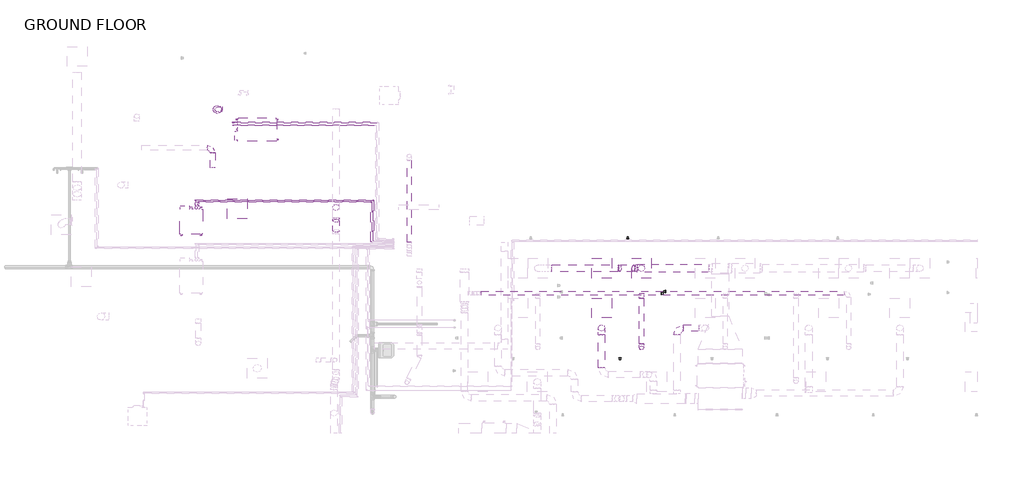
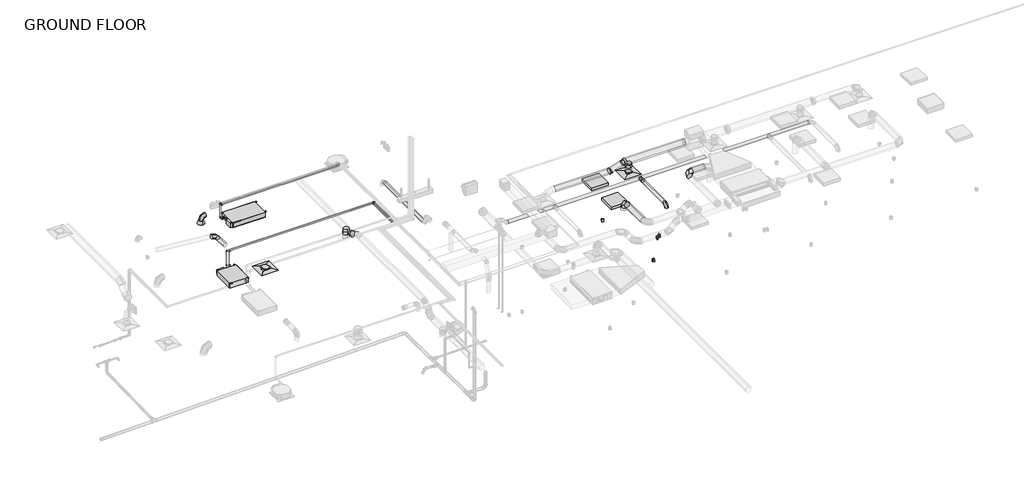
# One storey, part 17 of 22: 15 duct segments, 14 pipe segments, 13 duct fittings, 13 pipe fittings, 5 proxies, 2 air terminals, 2 light fixtures, 1 switching device.
"""IFC4 building model written with IfcOpenShell, lengths in millimetres."""

from ifc_helpers import new_model, si_unit, point, frame, frame_2d, origin, place, context, project, spatial, circle_curve, trimmed, segment, composite_curve, outline, extrude, transform, mapped, element, save
from components import air_terminal_a1f6e78c, air_terminal_e9020785, mechanical_equipment_2ac3c092, mechanical_equipment_deea6110, duplex_receptacle_countertop_10251bba, round_elbow_1_d_a253342a, round_elbow_1_d_b37ad80b, round_elbow_1_d_c80420c1, round_elbow_1_d_e295ca55, round_elbow_1_d_adb29f0a, round_takeoff_standard_aff246af, round_takeoff_standard_ca4b4131, round_takeoff_standard_17dc06e3, round_transition_angle_45_degree_b52f7b1d, round_transition_angle_45_degree_2c0294df, troffer_corner_insert_2x2_3lamp_e67c7f8f, elbow_generic_standard_c06ac706, elbow_generic_standard_738589b0, elbow_generic_standard_9ba8e076, elbow_generic_standard_698ab1fc, elbow_generic_standard_3fcd958e, elbow_generic_standard_3179f303, elbow_generic_standard_d7b8c0aa, transition_generic_standard_b8cb4354, transition_generic_standard_d781b39e, transition_generic_standard_43f54093

model = new_model("IFC4")

# Units and contexts
model_context = context("Model", 3, world=origin())
ifc_project = project(units=[si_unit("LENGTHUNIT", "METRE", prefix="MILLI")], contexts=[model_context])

# Site, building, storey
site = spatial("IfcSite", under=ifc_project)
building = spatial("IfcBuilding", under=site)
storey = spatial("IfcBuildingStorey", under=building, Name="GROUND FLOOR", Elevation=30480.0)

# Air terminals
placement = place(None, origin())
air_terminal_shape = air_terminal_a1f6e78c(model_context)
element("IfcAirTerminal", 1, ObjectType="Supply Diffuser - Rectangular Face Round Neck - Hosted : 24\"x24\" Face 10\" Neck - Hosted", at=placement, inside=storey, context=model_context, shape_type="MappedRepresentation", body=[
    mapped(air_terminal_shape, transform((-14215.1079607, 8625.8820005, 32715.2), x_axis=(-1.0, 0.0, 0.0), y_axis=(0.0, 1.0, 0.0), z_axis=(0.0, 0.0, -1.0))),
])
air_terminal_2_shape = air_terminal_e9020785(model_context)
element("IfcAirTerminal", 2, ObjectType="Supply Diffuser - Rectangular Face Round Neck - Hosted : 24\"x24\" Face 8\" Neck - Hosted", at=placement, inside=storey, context=model_context, shape_type="MappedRepresentation", body=[
    mapped(air_terminal_2_shape, transform((-1837.3704607, 6811.3695005, 33223.2), x_axis=(0.0, -1.0, 0.0), y_axis=(-1.0, 0.0, 0.0), z_axis=(0.0, 0.0, -1.0))),
])

# Proxies
mechanical_equipment_shape = mechanical_equipment_2ac3c092(model_context)
element("IfcBuildingElementProxy", 3, Name="PEFY-P-NMSU-E_Low_Profile_Ducted : PEFY-P24NMSU-E", ObjectType="PEFY-P-NMSU-E_Low_Profile_Ducted : PEFY-P24NMSU-E", at=placement, inside=storey, context=model_context, shape_type="MappedRepresentation", body=[
    mapped(mechanical_equipment_shape, transform((-13605.5079607, 11064.9671849, 33021.690625), x_axis=(-1.0, 0.0, 0.0), y_axis=(0.0, -1.0, 0.0), z_axis=(0.0, 0.0, 1.0))),
])
mechanical_equipment_2_shape = mechanical_equipment_deea6110(model_context)
element("IfcBuildingElementProxy", 4, Name="PEFY-P-NMSU-E_Low_Profile_Ducted : PEFY-P12NMSU-E", ObjectType="PEFY-P-NMSU-E_Low_Profile_Ducted : PEFY-P12NMSU-E", at=placement, inside=storey, context=model_context, shape_type="MappedRepresentation", body=[
    mapped(mechanical_equipment_2_shape, transform((-15624.8774525, 8243.4520797, 33021.7207031), x_axis=(0.0, 1.0, 0.0), y_axis=(-1.0, 0.0, 0.0), z_axis=(0.0, 0.0, 1.0))),
])
duplex_receptacle_countertop_shape = duplex_receptacle_countertop_10251bba(model_context)
element("IfcBuildingElementProxy", 5, Name="Duplex Receptacle : Standard", ObjectType="Duplex Receptacle : Standard", at=placement, inside=storey, context=model_context, shape_type="MappedRepresentation", body=[
    mapped(duplex_receptacle_countertop_shape, transform((-2255.887518, 7725.7695005, 30937.2), x_axis=(-1.0, 0.0, 0.0), y_axis=(0.0, 0.0, -1.0), z_axis=(0.0, -1.0, 0.0))),
])
element("IfcBuildingElementProxy", 6, Name="Duplex Receptacle : Standard", ObjectType="Duplex Receptacle : Standard", at=placement, inside=storey, context=model_context, shape_type="MappedRepresentation", body=[
    mapped(duplex_receptacle_countertop_shape, transform((-1227.7704607, 6038.2733061, 30937.2), x_axis=(0.0, -1.0, 0.0), y_axis=(0.0, 0.0, 1.0), z_axis=(-1.0, 0.0, 0.0))),
])
element("IfcBuildingElementProxy", 7, Name="Duplex Receptacle : Standard", ObjectType="Duplex Receptacle : Standard", at=placement, inside=storey, context=model_context, shape_type="MappedRepresentation", body=[
    mapped(duplex_receptacle_countertop_shape, transform((-1103.9454607, 6101.6354535, 30937.2), x_axis=(0.0, 1.0, 0.0), y_axis=(0.0, 0.0, 1.0), z_axis=(1.0, 0.0, 0.0))),
])

# Duct fittings
round_elbow_1_d_shape = round_elbow_1_d_a253342a(model_context)
element("IfcDuctFitting", 8, ObjectType="Round Elbow : 1 D", at=placement, inside=storey, context=model_context, shape_type="MappedRepresentation", body=[
    mapped(round_elbow_1_d_shape, transform((-3056.5704607, 4982.5695005, 33629.6), x_axis=(0.0, 0.0, 1.0), y_axis=(0.0, -1.0, 0.0), z_axis=(1.0, 0.0, 0.0))),
])
element("IfcDuctFitting", 9, ObjectType="Round Elbow : 1 D", at=placement, inside=storey, context=model_context, shape_type="MappedRepresentation", body=[
    mapped(round_elbow_1_d_shape, transform((-754.6339071, 4982.5695005, 33947.89375), x_axis=(-1.0, 0.0, 0.0), y_axis=(0.0, -1.0, 0.0), z_axis=(0.0, 0.0, 1.0))),
])
round_elbow_1_d_2_shape = round_elbow_1_d_b37ad80b(model_context)
element("IfcDuctFitting", 10, ObjectType="Round Elbow : 1 D", at=placement, inside=storey, context=model_context, shape_type="MappedRepresentation", body=[
    mapped(round_elbow_1_d_2_shape, transform((-14824.7079607, 11673.8820005, 33121.6), x_axis=(0.0, 0.0, 1.0), y_axis=(1.0, 0.0, 0.0), z_axis=(0.0, 1.0, 0.0))),
])
element("IfcDuctFitting", 11, ObjectType="Round Elbow : 1 D", at=placement, inside=storey, context=model_context, shape_type="MappedRepresentation", body=[
    mapped(round_elbow_1_d_2_shape, transform((-14970.033703, 10498.3395797, 33121.6), x_axis=(0.0, 1.0, 0.0), y_axis=(-0.9961916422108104, 0.0, 0.08719066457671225), z_axis=(0.08719066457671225, 0.0, 0.9961916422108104))),
])
round_elbow_1_d_3_shape = round_elbow_1_d_c80420c1(model_context)
element("IfcDuctFitting", 12, ObjectType="Round Elbow : 1 D", at=placement, inside=storey, context=model_context, shape_type="MappedRepresentation", body=[
    mapped(round_elbow_1_d_3_shape, transform((-1837.3704607, 4372.9695005, 33464.5), x_axis=(0.0, -1.0, 0.0), y_axis=(0.0, 0.0, -1.0), z_axis=(1.0, 0.0, 0.0))),
])
round_elbow_1_d_4_shape = round_elbow_1_d_e295ca55(model_context)
element("IfcDuctFitting", 13, ObjectType="Round Elbow : 1 D", at=placement, inside=storey, context=model_context, shape_type="MappedRepresentation", body=[
    mapped(round_elbow_1_d_4_shape, transform((-11194.8892107, 8307.3750179, 33197.8), x_axis=(0.0, -1.0, 0.0), y_axis=(0.0, 0.0, 1.0), z_axis=(-1.0, 0.0, 0.0))),
])
round_elbow_1_d_5_shape = round_elbow_1_d_adb29f0a(model_context)
element("IfcDuctFitting", 14, ObjectType="Round Elbow : 1 D", at=placement, inside=storey, context=model_context, shape_type="MappedRepresentation", body=[
    mapped(round_elbow_1_d_5_shape, transform((-2055.3843434, 6811.3695005, 33680.0490295), x_axis=(-1.0, 0.0, 0.0), y_axis=(0.0, 0.0, -1.0), z_axis=(0.0, -1.0, 0.0))),
])
element("IfcDuctFitting", 15, ObjectType="Round Elbow : 1 D", at=placement, inside=storey, context=model_context, shape_type="MappedRepresentation", body=[
    mapped(round_elbow_1_d_5_shape, transform((-2523.3431384, 6811.3695005, 33528.0), x_axis=(-0.9510565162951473, 0.0, -0.30901699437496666), y_axis=(-0.30901699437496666, 0.0, 0.9510565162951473), z_axis=(0.0, 1.0, 0.0))),
])
round_takeoff_standard_shape = round_takeoff_standard_aff246af(model_context)
element("IfcDuctFitting", 16, ObjectType="Round Takeoff : Standard", at=placement, inside=storey, context=model_context, shape_type="MappedRepresentation", body=[
    mapped(round_takeoff_standard_shape, transform((-11194.8892107, 8675.0945005, 33096.2), x_axis=(0.0, 0.0, -1.0), y_axis=(-1.0, 0.0, 0.0), z_axis=(0.0, 1.0, 0.0))),
])
round_takeoff_standard_2_shape = round_takeoff_standard_ca4b4131(model_context)
element("IfcDuctFitting", 17, ObjectType="Round Takeoff : Standard", at=placement, inside=storey, context=model_context, shape_type="MappedRepresentation", body=[
    mapped(round_takeoff_standard_2_shape, transform((-1837.3704607, 6811.3695005, 33553.0490295), x_axis=(0.0, 0.0, -1.0), y_axis=(1.0, 0.0, 0.0), z_axis=(0.0, -1.0, 0.0))),
])
round_takeoff_standard_3_shape = round_takeoff_standard_17dc06e3(model_context)
element("IfcDuctFitting", 18, ObjectType="Round Takeoff : Standard", at=placement, inside=storey, context=model_context, shape_type="MappedRepresentation", body=[
    mapped(round_takeoff_standard_3_shape, transform((-1837.3704607, 5985.8695005, 33464.5), x_axis=(0.0, -1.0, 0.0), y_axis=(-1.0, 0.0, 0.0), z_axis=(0.0, 0.0, -1.0))),
])
round_transition_angle_45_degree_shape = round_transition_angle_45_degree_b52f7b1d(model_context)
element("IfcDuctFitting", 19, ObjectType="Round Transition - Angle : 45 Degree", at=placement, inside=storey, context=model_context, shape_type="MappedRepresentation", body=[
    mapped(round_transition_angle_45_degree_shape, transform((-14824.7079607, 11673.8820005, 32846.557951), x_axis=(0.0, 0.0, 1.0), y_axis=(0.0, 1.0, 0.0), z_axis=(-1.0, 0.0, 0.0))),
])
round_transition_angle_45_degree_2_shape = round_transition_angle_45_degree_2c0294df(model_context)
element("IfcDuctFitting", 20, ObjectType="Round Transition - Angle : 45 Degree", at=placement, inside=storey, context=model_context, shape_type="MappedRepresentation", body=[
    mapped(round_transition_angle_45_degree_2_shape, transform((-1961.8796006, 6811.3695005, 33680.0490295), x_axis=(-1.0, 0.0, 0.0), y_axis=(0.0, -1.0, 0.0), z_axis=(0.0, 0.0, 1.0))),
])

# Duct segments
element("IfcDuctSegment", 21, ObjectType="Taps / Short Radius", at=placement, inside=storey, context=model_context, shape_type="SweptSolid", body=[
    extrude(outline(composite_curve([segment(trimmed(circle_curve(frame_2d((-14824.7079607, 11673.8820005)), 127.0), [point((-14824.7079607, 11546.8820005))], [point((-14951.7079607, 11673.8820005))], False, "CARTESIAN"), True, "CONTINUOUS"), segment(trimmed(circle_curve(frame_2d((-14824.7079607, 11673.8820005)), 127.0), [point((-14951.7079607, 11673.8820005))], [point((-14824.7079607, 11800.8820005))], False, "CARTESIAN"), True, "CONTINUOUS"), segment(trimmed(circle_curve(frame_2d((-14824.7079607, 11673.8820005)), 127.0), [point((-14824.7079607, 11800.8820005))], [point((-14697.7079607, 11673.8820005))], False, "CARTESIAN"), True, "CONTINUOUS"), segment(trimmed(circle_curve(frame_2d((-14824.7079607, 11673.8820005)), 127.0), [point((-14697.7079607, 11673.8820005))], [point((-14824.7079607, 11546.8820005))], False, "CARTESIAN"), True, "CONTINUOUS")], self_intersect=False)), frame((0.0, 0.0, 32816.8), z_axis=(0.0, 0.0, 1.0), x_axis=(1.0, 0.0, 0.0)), (0.0, 0.0, 1.0), 29.757951),
])
element("IfcDuctSegment", 22, ObjectType="Taps / Short Radius", at=placement, inside=storey, context=model_context, shape_type="SweptSolid", body=[
    extrude(outline(composite_curve([segment(trimmed(circle_curve(frame_2d((0.0, 101.6)), 101.6), [point((-101.6, 101.6))], [point((0.0, 203.2))], False, "CARTESIAN"), True, "CONTINUOUS"), segment(trimmed(circle_curve(frame_2d((0.0, 101.6)), 101.6), [point((0.0, 203.2))], [point((101.6, 101.6))], False, "CARTESIAN"), True, "CONTINUOUS"), segment(trimmed(circle_curve(frame_2d((0.0, 101.6)), 101.6), [point((101.6, 101.6))], [point((0.0, 0.0))], False, "CARTESIAN"), True, "CONTINUOUS"), segment(trimmed(circle_curve(frame_2d((0.0, 101.6)), 101.6), [point((0.0, 0.0))], [point((-101.6, 101.6))], False, "CARTESIAN"), True, "CONTINUOUS")], self_intersect=False)), frame((-11194.8892107, 8217.6378472, 33129.5435153), z_axis=(0.0, -0.8906052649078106, 0.4547771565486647), x_axis=(1.0, 0.0, 0.0)), (0.0, 0.0, 1.0), 349.0544267),
])
element("IfcDuctSegment", 23, ObjectType="Taps / Short Radius", at=placement, inside=storey, context=model_context, shape_type="SweptSolid", body=[
    extrude(outline(composite_curve([segment(trimmed(circle_curve(frame_2d((6811.3695005, 33680.0490295)), 127.0), [point((6938.3695005, 33680.0490295))], [point((6811.3695005, 33553.0490295))], False, "CARTESIAN"), True, "CONTINUOUS"), segment(trimmed(circle_curve(frame_2d((6811.3695005, 33680.0490295)), 127.0), [point((6811.3695005, 33553.0490295))], [point((6684.3695005, 33680.0490295))], False, "CARTESIAN"), True, "CONTINUOUS"), segment(trimmed(circle_curve(frame_2d((6811.3695005, 33680.0490295)), 127.0), [point((6684.3695005, 33680.0490295))], [point((6811.3695005, 33807.0490295))], False, "CARTESIAN"), True, "CONTINUOUS"), segment(trimmed(circle_curve(frame_2d((6811.3695005, 33680.0490295)), 127.0), [point((6811.3695005, 33807.0490295))], [point((6938.3695005, 33680.0490295))], False, "CARTESIAN"), True, "CONTINUOUS")], self_intersect=False)), frame((-1961.8796006, 0.0, 0.0), z_axis=(1.0, 0.0, 0.0), x_axis=(0.0, 1.0, 0.0)), (0.0, 0.0, 1.0), 2182.2731725),
])
element("IfcDuctSegment", 24, ObjectType="Taps / Short Radius", at=placement, inside=storey, context=model_context, shape_type="SweptSolid", body=[
    extrude(outline(composite_curve([segment(trimmed(circle_curve(frame_2d((0.0, -101.6)), 101.6), [point((0.0, 0.0))], [point((101.6, -101.6))], False, "CARTESIAN"), True, "CONTINUOUS"), segment(trimmed(circle_curve(frame_2d((0.0, -101.6)), 101.6), [point((101.6, -101.6))], [point((0.0, -203.2))], False, "CARTESIAN"), True, "CONTINUOUS"), segment(trimmed(circle_curve(frame_2d((0.0, -101.6)), 101.6), [point((0.0, -203.2))], [point((-101.6, -101.6))], False, "CARTESIAN"), True, "CONTINUOUS"), segment(trimmed(circle_curve(frame_2d((0.0, -101.6)), 101.6), [point((-101.6, -101.6))], [point((0.0, 0.0))], False, "CARTESIAN"), True, "CONTINUOUS")], self_intersect=False)), frame((-2492.7346034, 6912.9695005, 33537.9453159), z_axis=(0.9510565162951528, 0.0, 0.30901699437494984), x_axis=(0.30901699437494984, 0.0, -0.9510565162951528)), (0.0, 0.0, 1.0), 427.6735589),
])
element("IfcDuctSegment", 25, ObjectType="Taps / Short Radius", at=placement, inside=storey, context=model_context, shape_type="SweptSolid", body=[
    extrude(outline(composite_curve([segment(trimmed(circle_curve(frame_2d((6811.3695005, 33528.0)), 101.6), [point((6912.9695005, 33528.0))], [point((6811.3695005, 33426.4))], False, "CARTESIAN"), True, "CONTINUOUS"), segment(trimmed(circle_curve(frame_2d((6811.3695005, 33528.0)), 101.6), [point((6811.3695005, 33426.4))], [point((6709.7695005, 33528.0))], False, "CARTESIAN"), True, "CONTINUOUS"), segment(trimmed(circle_curve(frame_2d((6811.3695005, 33528.0)), 101.6), [point((6709.7695005, 33528.0))], [point((6811.3695005, 33629.6))], False, "CARTESIAN"), True, "CONTINUOUS"), segment(trimmed(circle_curve(frame_2d((6811.3695005, 33528.0)), 101.6), [point((6811.3695005, 33629.6))], [point((6912.9695005, 33528.0))], False, "CARTESIAN"), True, "CONTINUOUS")], self_intersect=False)), frame((-4580.7431384, 0.0, 0.0), z_axis=(1.0, 0.0, 0.0), x_axis=(0.0, 1.0, 0.0)), (0.0, 0.0, 1.0), 2025.2162817),
])
element("IfcDuctSegment", 26, ObjectType="Taps / Short Radius", at=placement, inside=storey, context=model_context, shape_type="SweptSolid", body=[
    extrude(outline(composite_curve([segment(trimmed(circle_curve(frame_2d((-1837.3704607, 6811.3695005)), 101.6), [point((-1735.7704607, 6811.3695005))], [point((-1837.3704607, 6709.7695005))], False, "CARTESIAN"), True, "CONTINUOUS"), segment(trimmed(circle_curve(frame_2d((-1837.3704607, 6811.3695005)), 101.6), [point((-1837.3704607, 6709.7695005))], [point((-1938.9704607, 6811.3695005))], False, "CARTESIAN"), True, "CONTINUOUS"), segment(trimmed(circle_curve(frame_2d((-1837.3704607, 6811.3695005)), 101.6), [point((-1938.9704607, 6811.3695005))], [point((-1837.3704607, 6912.9695005))], False, "CARTESIAN"), True, "CONTINUOUS"), segment(trimmed(circle_curve(frame_2d((-1837.3704607, 6811.3695005)), 101.6), [point((-1837.3704607, 6912.9695005))], [point((-1735.7704607, 6811.3695005))], False, "CARTESIAN"), True, "CONTINUOUS")], self_intersect=False)), frame((0.0, 0.0, 33277.175), z_axis=(0.0, 0.0, 1.0), x_axis=(1.0, 0.0, 0.0)), (0.0, 0.0, 1.0), 174.2740295),
])
element("IfcDuctSegment", 27, ObjectType="Taps / Short Radius", at=placement, inside=storey, context=model_context, shape_type="SweptSolid", body=[
    extrude(outline(composite_curve([segment(trimmed(circle_curve(frame_2d((33629.6, -3056.5704607)), 101.6), [point((33629.6, -3158.1704607))], [point((33528.0, -3056.5704607))], False, "CARTESIAN"), True, "CONTINUOUS"), segment(trimmed(circle_curve(frame_2d((33629.6, -3056.5704607)), 101.6), [point((33528.0, -3056.5704607))], [point((33629.6, -2954.9704607))], False, "CARTESIAN"), True, "CONTINUOUS"), segment(trimmed(circle_curve(frame_2d((33629.6, -3056.5704607)), 101.6), [point((33629.6, -2954.9704607))], [point((33731.2, -3056.5704607))], False, "CARTESIAN"), True, "CONTINUOUS"), segment(trimmed(circle_curve(frame_2d((33629.6, -3056.5704607)), 101.6), [point((33731.2, -3056.5704607))], [point((33629.6, -3158.1704607))], False, "CARTESIAN"), True, "CONTINUOUS")], self_intersect=False)), frame((0.0, 3758.101218, 0.0), z_axis=(0.0, 1.0, 0.0), x_axis=(0.0, 0.0, 1.0)), (0.0, 0.0, 1.0), 1021.2682826),
])
element("IfcDuctSegment", 28, ObjectType="Taps / Short Radius", at=placement, inside=storey, context=model_context, shape_type="SweptSolid", body=[
    extrude(outline(composite_curve([segment(trimmed(circle_curve(frame_2d((-3056.5704607, 4982.5695005)), 101.6), [point((-3158.1704607, 4982.5695005))], [point((-3056.5704607, 5084.1695005))], False, "CARTESIAN"), True, "CONTINUOUS"), segment(trimmed(circle_curve(frame_2d((-3056.5704607, 4982.5695005)), 101.6), [point((-3056.5704607, 5084.1695005))], [point((-2954.9704607, 4982.5695005))], False, "CARTESIAN"), True, "CONTINUOUS"), segment(trimmed(circle_curve(frame_2d((-3056.5704607, 4982.5695005)), 101.6), [point((-2954.9704607, 4982.5695005))], [point((-3056.5704607, 4880.9695005))], False, "CARTESIAN"), True, "CONTINUOUS"), segment(trimmed(circle_curve(frame_2d((-3056.5704607, 4982.5695005)), 101.6), [point((-3056.5704607, 4880.9695005))], [point((-3158.1704607, 4982.5695005))], False, "CARTESIAN"), True, "CONTINUOUS")], self_intersect=False)), frame((0.0, 0.0, 33324.8), z_axis=(0.0, 0.0, 1.0), x_axis=(1.0, 0.0, 0.0)), (0.0, 0.0, 1.0), 101.6),
])
element("IfcDuctSegment", 29, ObjectType="Taps / Short Radius", at=placement, inside=storey, context=model_context, shape_type="SweptSolid", body=[
    extrude(outline(composite_curve([segment(trimmed(circle_curve(frame_2d((4982.5695005, 33947.89375)), 101.6), [point((5084.1695005, 33947.89375))], [point((4982.5695005, 33846.29375))], False, "CARTESIAN"), True, "CONTINUOUS"), segment(trimmed(circle_curve(frame_2d((4982.5695005, 33947.89375)), 101.6), [point((4982.5695005, 33846.29375))], [point((4880.9695005, 33947.89375))], False, "CARTESIAN"), True, "CONTINUOUS"), segment(trimmed(circle_curve(frame_2d((4982.5695005, 33947.89375)), 101.6), [point((4880.9695005, 33947.89375))], [point((4982.5695005, 34049.49375))], False, "CARTESIAN"), True, "CONTINUOUS"), segment(trimmed(circle_curve(frame_2d((4982.5695005, 33947.89375)), 101.6), [point((4982.5695005, 34049.49375))], [point((5084.1695005, 33947.89375))], False, "CARTESIAN"), True, "CONTINUOUS")], self_intersect=False)), frame((-551.4339071, 0.0, 0.0), z_axis=(1.0, 0.0, 0.0), x_axis=(0.0, 1.0, 0.0)), (0.0, 0.0, 1.0), 463.4884464),
])
element("IfcDuctSegment", 30, ObjectType="Taps / Short Radius", at=placement, inside=storey, context=model_context, shape_type="SweptSolid", body=[
    extrude(outline(composite_curve([segment(trimmed(circle_curve(frame_2d((0.0, 63.5)), 63.5), [point((-63.5, 63.5))], [point((0.0, 127.0))], False, "CARTESIAN"), True, "CONTINUOUS"), segment(trimmed(circle_curve(frame_2d((0.0, 63.5)), 63.5), [point((0.0, 127.0))], [point((63.5, 63.5))], False, "CARTESIAN"), True, "CONTINUOUS"), segment(trimmed(circle_curve(frame_2d((0.0, 63.5)), 63.5), [point((63.5, 63.5))], [point((0.0, 0.0))], False, "CARTESIAN"), True, "CONTINUOUS"), segment(trimmed(circle_curve(frame_2d((0.0, 63.5)), 63.5), [point((0.0, 0.0))], [point((-63.5, 63.5))], False, "CARTESIAN"), True, "CONTINUOUS")], self_intersect=False)), frame((-1837.3704607, 4309.4695005, 33324.8), z_axis=(0.0, -1.0231815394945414e-12, 1.0), x_axis=(1.0, 0.0, 0.0)), (0.0, 0.0, 1.0), 12.7),
])
element("IfcDuctSegment", 31, ObjectType="Taps / Short Radius", at=placement, inside=storey, context=model_context, shape_type="SweptSolid", body=[
    extrude(outline(composite_curve([segment(trimmed(circle_curve(frame_2d((33464.5, -1837.3704607)), 63.5), [point((33464.5, -1900.8704607))], [point((33401.0, -1837.3704607))], False, "CARTESIAN"), True, "CONTINUOUS"), segment(trimmed(circle_curve(frame_2d((33464.5, -1837.3704607)), 63.5), [point((33401.0, -1837.3704607))], [point((33464.5, -1773.8704607))], False, "CARTESIAN"), True, "CONTINUOUS"), segment(trimmed(circle_curve(frame_2d((33464.5, -1837.3704607)), 63.5), [point((33464.5, -1773.8704607))], [point((33528.0, -1837.3704607))], False, "CARTESIAN"), True, "CONTINUOUS"), segment(trimmed(circle_curve(frame_2d((33464.5, -1837.3704607)), 63.5), [point((33528.0, -1837.3704607))], [point((33464.5, -1900.8704607))], False, "CARTESIAN"), True, "CONTINUOUS")], self_intersect=False)), frame((0.0, 4499.9695005, 0.0), z_axis=(0.0, 1.0, 0.0), x_axis=(0.0, 0.0, 1.0)), (0.0, 0.0, 1.0), 1384.3),
])
element("IfcDuctSegment", 32, ObjectType="Taps / Short Radius", at=placement, inside=storey, context=model_context, shape_type="SweptSolid", body=[
    extrude(outline(composite_curve([segment(trimmed(circle_curve(frame_2d((33121.6, -14970.033703)), 76.2), [point((33121.6, -14893.833703))], [point((33197.8, -14970.033703))], False, "CARTESIAN"), True, "CONTINUOUS"), segment(trimmed(circle_curve(frame_2d((33121.6, -14970.033703)), 76.2), [point((33197.8, -14970.033703))], [point((33121.6, -15046.233703))], False, "CARTESIAN"), True, "CONTINUOUS"), segment(trimmed(circle_curve(frame_2d((33121.6, -14970.033703)), 76.2), [point((33121.6, -15046.233703))], [point((33045.4, -14970.033703))], False, "CARTESIAN"), True, "CONTINUOUS"), segment(trimmed(circle_curve(frame_2d((33121.6, -14970.033703)), 76.2), [point((33045.4, -14970.033703))], [point((33121.6, -14893.833703))], False, "CARTESIAN"), True, "CONTINUOUS")], self_intersect=False)), frame((0.0, 9884.3816287, 0.0), z_axis=(0.0, 1.0, 0.0), x_axis=(0.0, 0.0, 1.0)), (0.0, 0.0, 1.0), 461.557951),
])
element("IfcDuctSegment", 33, ObjectType="Taps / Short Radius", at=placement, inside=storey, context=model_context, shape_type="SweptSolid", body=[
    extrude(outline(composite_curve([segment(trimmed(circle_curve(frame_2d((-11194.8892107, 8675.0945005)), 101.6), [point((-11296.4892107, 8675.0945005))], [point((-11194.8892107, 8776.6945005))], False, "CARTESIAN"), True, "CONTINUOUS"), segment(trimmed(circle_curve(frame_2d((-11194.8892107, 8675.0945005)), 101.6), [point((-11194.8892107, 8776.6945005))], [point((-11093.2892107, 8675.0945005))], False, "CARTESIAN"), True, "CONTINUOUS"), segment(trimmed(circle_curve(frame_2d((-11194.8892107, 8675.0945005)), 101.6), [point((-11093.2892107, 8675.0945005))], [point((-11194.8892107, 8573.4945005))], False, "CARTESIAN"), True, "CONTINUOUS"), segment(trimmed(circle_curve(frame_2d((-11194.8892107, 8675.0945005)), 101.6), [point((-11194.8892107, 8573.4945005))], [point((-11296.4892107, 8675.0945005))], False, "CARTESIAN"), True, "CONTINUOUS")], self_intersect=False)), frame((0.0, 0.0, 32816.8), z_axis=(0.0, 0.0, 1.0), x_axis=(1.0, 0.0, 0.0)), (0.0, 0.0, 1.0), 177.8),
])
element("IfcDuctSegment", 34, ObjectType="Taps / Short Radius", at=placement, inside=storey, context=model_context, shape_type="SweptSolid", body=[
    extrude(outline(composite_curve([segment(trimmed(circle_curve(frame_2d((33324.8, -8950.9579607)), 63.5), [point((33324.8, -9014.4579607))], [point((33261.3, -8950.9579607))], False, "CARTESIAN"), True, "CONTINUOUS"), segment(trimmed(circle_curve(frame_2d((33324.8, -8950.9579607)), 63.5), [point((33261.3, -8950.9579607))], [point((33324.8, -8887.4579607))], False, "CARTESIAN"), True, "CONTINUOUS"), segment(trimmed(circle_curve(frame_2d((33324.8, -8950.9579607)), 63.5), [point((33324.8, -8887.4579607))], [point((33388.3, -8950.9579607))], False, "CARTESIAN"), True, "CONTINUOUS"), segment(trimmed(circle_curve(frame_2d((33324.8, -8950.9579607)), 63.5), [point((33388.3, -8950.9579607))], [point((33324.8, -9014.4579607))], False, "CARTESIAN"), True, "CONTINUOUS")], self_intersect=False)), frame((0.0, 7605.1195005, 0.0), z_axis=(0.0, 1.0, 0.0), x_axis=(0.0, 0.0, 1.0)), (0.0, 0.0, 1.0), 2514.6),
])
element("IfcDuctSegment", 35, ObjectType="Taps / Short Radius", at=placement, inside=storey, context=model_context, shape_type="SweptSolid", body=[
    extrude(outline(composite_curve([segment(trimmed(circle_curve(frame_2d((6049.3695005, 33464.5)), 63.5), [point((5985.8695005, 33464.5))], [point((6049.3695005, 33528.0))], False, "CARTESIAN"), True, "CONTINUOUS"), segment(trimmed(circle_curve(frame_2d((6049.3695005, 33464.5)), 63.5), [point((6049.3695005, 33528.0))], [point((6112.8695005, 33464.5))], False, "CARTESIAN"), True, "CONTINUOUS"), segment(trimmed(circle_curve(frame_2d((6049.3695005, 33464.5)), 63.5), [point((6112.8695005, 33464.5))], [point((6049.3695005, 33401.0))], False, "CARTESIAN"), True, "CONTINUOUS"), segment(trimmed(circle_curve(frame_2d((6049.3695005, 33464.5)), 63.5), [point((6049.3695005, 33401.0))], [point((5985.8695005, 33464.5))], False, "CARTESIAN"), True, "CONTINUOUS")], self_intersect=False)), frame((-6741.227503, 0.0, 0.0), z_axis=(1.0, 0.0, 0.0), x_axis=(0.0, 1.0, 0.0)), (0.0, 0.0, 1.0), 11120.5070423),
])

# Light fixtures
troffer_corner_insert_2x2_3lamp_shape = troffer_corner_insert_2x2_3lamp_e67c7f8f(model_context)
element("IfcLightFixture", 36, ObjectType="Troffer Corner Insert : 2x2 3Lamp", at=placement, inside=storey, context=model_context, shape_type="MappedRepresentation", body=[
    mapped(troffer_corner_insert_2x2_3lamp_shape, transform((-3056.5704607, 6811.3695005, 30784.8), x_axis=(1.0, 0.0, 0.0), y_axis=(0.0, 1.0, 0.0), z_axis=(0.0, 0.0, 1.0))),
])
element("IfcLightFixture", 37, ObjectType="Troffer Corner Insert : 2x2 3Lamp", at=placement, inside=storey, context=model_context, shape_type="MappedRepresentation", body=[
    mapped(troffer_corner_insert_2x2_3lamp_shape, transform((-3056.5704607, 5592.1695005, 30784.8), x_axis=(1.0, 0.0, 0.0), y_axis=(0.0, 1.0, 0.0), z_axis=(0.0, 0.0, 1.0))),
])

# Pipe fittings
elbow_generic_standard_shape = elbow_generic_standard_c06ac706(model_context)
element("IfcPipeFitting", 38, ObjectType="Elbow - Generic : Standard", at=placement, inside=storey, context=model_context, shape_type="MappedRepresentation", body=[
    mapped(elbow_generic_standard_shape, transform((-15415.123395, 8840.3395774, 33680.4), x_axis=(0.0, 0.0, 1.0), y_axis=(1.0, 0.0, 0.0), z_axis=(0.0, 1.0, 0.0))),
])
element("IfcPipeFitting", 39, ObjectType="Elbow - Generic : Standard", at=placement, inside=storey, context=model_context, shape_type="MappedRepresentation", body=[
    mapped(elbow_generic_standard_shape, transform((-10108.9967002, 8840.3395774, 33680.4), x_axis=(0.0, 1.0, 0.0), y_axis=(-1.0, 0.0, 0.0), z_axis=(0.0, 0.0, 1.0))),
])
elbow_generic_standard_2_shape = elbow_generic_standard_738589b0(model_context)
element("IfcPipeFitting", 40, ObjectType="Elbow - Generic : Standard", at=placement, inside=storey, context=model_context, shape_type="MappedRepresentation", body=[
    mapped(elbow_generic_standard_2_shape, transform((-14343.6452537, 11191.5268827, 33680.4), x_axis=(0.0, 0.0, 1.0), y_axis=(1.0, 0.0, 0.0), z_axis=(0.0, 1.0, 0.0))),
])
element("IfcPipeFitting", 41, ObjectType="Elbow - Generic : Standard", at=placement, inside=storey, context=model_context, shape_type="MappedRepresentation", body=[
    mapped(elbow_generic_standard_2_shape, transform((-15498.3177546, 8891.1395782, 33680.4), x_axis=(0.0, 0.0, 1.0), y_axis=(1.0, 0.0, 0.0), z_axis=(0.0, 1.0, 0.0))),
])
element("IfcPipeFitting", 42, ObjectType="Elbow - Generic : Standard", at=placement, inside=storey, context=model_context, shape_type="MappedRepresentation", body=[
    mapped(elbow_generic_standard_2_shape, transform((-10040.0330578, 8891.1395782, 33680.4), x_axis=(0.0, 1.0, 0.0), y_axis=(-1.0, 0.0, 0.0), z_axis=(0.0, 0.0, 1.0))),
])
elbow_generic_standard_3_shape = elbow_generic_standard_9ba8e076(model_context)
element("IfcPipeFitting", 43, ObjectType="Elbow - Generic : Standard", at=placement, inside=storey, context=model_context, shape_type="MappedRepresentation", body=[
    mapped(elbow_generic_standard_3_shape, transform((-14343.6452537, 11191.5268827, 33121.690625), x_axis=(-1.0, 0.0, 0.0), y_axis=(0.0, 0.0, 1.0), z_axis=(0.0, 1.0, 0.0))),
])
elbow_generic_standard_4_shape = elbow_generic_standard_698ab1fc(model_context)
element("IfcPipeFitting", 44, ObjectType="Elbow - Generic : Standard", at=placement, inside=storey, context=model_context, shape_type="MappedRepresentation", body=[
    mapped(elbow_generic_standard_4_shape, transform((-14350.0454441, 11274.7212423, 33121.690625), x_axis=(-1.0, 0.0, 0.0), y_axis=(0.0, 0.0, 1.0), z_axis=(0.0, 1.0, 0.0))),
])
elbow_generic_standard_5_shape = elbow_generic_standard_3fcd958e(model_context)
element("IfcPipeFitting", 45, ObjectType="Elbow - Generic : Standard", at=placement, inside=storey, context=model_context, shape_type="MappedRepresentation", body=[
    mapped(elbow_generic_standard_5_shape, transform((-14350.0448515, 11274.7212423, 33680.3914063), x_axis=(0.0, 0.0, 1.0), y_axis=(1.0, 0.0, 0.0), z_axis=(0.0, 1.0, 0.0))),
])
elbow_generic_standard_6_shape = elbow_generic_standard_3179f303(model_context)
element("IfcPipeFitting", 46, ObjectType="Elbow - Generic : Standard", at=placement, inside=storey, context=model_context, shape_type="MappedRepresentation", body=[
    mapped(elbow_generic_standard_6_shape, transform((-15415.123395, 8840.3395774, 33121.6992188), x_axis=(0.0, 0.9999999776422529, -0.00021146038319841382), y_axis=(0.0, 0.00021146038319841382, 0.9999999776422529), z_axis=(1.0, 0.0, 0.0))),
])
elbow_generic_standard_7_shape = elbow_generic_standard_d7b8c0aa(model_context)
element("IfcPipeFitting", 47, ObjectType="Elbow - Generic : Standard", at=placement, inside=storey, context=model_context, shape_type="MappedRepresentation", body=[
    mapped(elbow_generic_standard_7_shape, transform((-15498.3177546, 8891.1395782, 33121.6992188), x_axis=(0.0, 0.9999999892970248, -0.00014630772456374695), y_axis=(0.0, 0.00014630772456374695, 0.9999999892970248), z_axis=(1.0, 0.0, 0.0))),
])
transition_generic_standard_shape = transition_generic_standard_b8cb4354(model_context)
element("IfcPipeFitting", 48, ObjectType="Transition - Generic : Standard", at=placement, inside=storey, context=model_context, shape_type="MappedRepresentation", body=[
    mapped(transition_generic_standard_shape, transform((-14343.6452537, 11191.5268827, 33139.128125), x_axis=(0.0, 0.0, 1.0), y_axis=(0.0, 1.0, 0.0), z_axis=(-1.0, 0.0, 0.0))),
])
transition_generic_standard_2_shape = transition_generic_standard_d781b39e(model_context)
element("IfcPipeFitting", 49, ObjectType="Transition - Generic : Standard", at=placement, inside=storey, context=model_context, shape_type="MappedRepresentation", body=[
    mapped(transition_generic_standard_2_shape, transform((-14350.0454441, 11274.7212423, 33145.528125), x_axis=(0.0, 0.0, 1.0), y_axis=(0.0, 1.0, 0.0), z_axis=(-1.0, 0.0, 0.0))),
])
transition_generic_standard_3_shape = transition_generic_standard_43f54093(model_context)
element("IfcPipeFitting", 50, ObjectType="Transition - Generic : Standard", at=placement, inside=storey, context=model_context, shape_type="MappedRepresentation", body=[
    mapped(transition_generic_standard_3_shape, transform((-15498.3177546, 8738.7395797, 33121.7207031), x_axis=(0.0, 1.0, 0.0), y_axis=(-1.0, 0.0, 0.0), z_axis=(0.0, 0.0, 1.0))),
])

# Pipe segments
element("IfcPipeSegment", 51, ObjectType="Copper Tubing", at=placement, inside=storey, context=model_context, shape_type="SweptSolid", body=[
    extrude(outline(composite_curve([segment(trimmed(circle_curve(frame_2d((-14343.6452537, 11191.5268827)), 11.1125), [point((-14354.7577537, 11191.5268827))], [point((-14343.6452537, 11202.6393827))], False, "CARTESIAN"), True, "CONTINUOUS"), segment(trimmed(circle_curve(frame_2d((-14343.6452537, 11191.5268827)), 11.1125), [point((-14343.6452537, 11202.6393827))], [point((-14332.5327537, 11191.5268827))], False, "CARTESIAN"), True, "CONTINUOUS"), segment(trimmed(circle_curve(frame_2d((-14343.6452537, 11191.5268827)), 11.1125), [point((-14332.5327537, 11191.5268827))], [point((-14343.6452537, 11180.4143827))], False, "CARTESIAN"), True, "CONTINUOUS"), segment(trimmed(circle_curve(frame_2d((-14343.6452537, 11191.5268827)), 11.1125), [point((-14343.6452537, 11180.4143827))], [point((-14354.7577537, 11191.5268827))], False, "CARTESIAN"), True, "CONTINUOUS")], self_intersect=False)), frame((0.0, 0.0, 33144.684375), z_axis=(0.0, 0.0, 1.0), x_axis=(1.0, 0.0, 0.0)), (0.0, 0.0, 1.0), 518.253125),
])
element("IfcPipeSegment", 52, ObjectType="Copper Tubing", at=placement, inside=storey, context=model_context, shape_type="SweptSolid", body=[
    extrude(outline(composite_curve([segment(trimmed(circle_curve(frame_2d((11191.5268827, 33121.690625)), 9.5), [point((11201.0268827, 33121.690625))], [point((11191.5268827, 33112.190625))], False, "CARTESIAN"), True, "CONTINUOUS"), segment(trimmed(circle_curve(frame_2d((11191.5268827, 33121.690625)), 9.5), [point((11191.5268827, 33112.190625))], [point((11182.0268827, 33121.690625))], False, "CARTESIAN"), True, "CONTINUOUS"), segment(trimmed(circle_curve(frame_2d((11191.5268827, 33121.690625)), 9.5), [point((11182.0268827, 33121.690625))], [point((11191.5268827, 33131.190625))], False, "CARTESIAN"), True, "CONTINUOUS"), segment(trimmed(circle_curve(frame_2d((11191.5268827, 33121.690625)), 9.5), [point((11191.5268827, 33131.190625))], [point((11201.0268827, 33121.690625))], False, "CARTESIAN"), True, "CONTINUOUS")], self_intersect=False)), frame((-14326.2077537, 0.0, 0.0), z_axis=(1.0, 0.0, 0.0), x_axis=(0.0, 1.0, 0.0)), (0.0, 0.0, 1.0), 25.399793),
])
element("IfcPipeSegment", 53, ObjectType="Copper Tubing", at=placement, inside=storey, context=model_context, shape_type="SweptSolid", body=[
    extrude(outline(composite_curve([segment(trimmed(circle_curve(frame_2d((0.0, 20.6375)), 20.6375), [point((-20.6375, 20.6375))], [point((0.0, 41.275))], False, "CARTESIAN"), True, "CONTINUOUS"), segment(trimmed(circle_curve(frame_2d((0.0, 20.6375)), 20.6375), [point((0.0, 41.275))], [point((20.6375, 20.6375))], False, "CARTESIAN"), True, "CONTINUOUS"), segment(trimmed(circle_curve(frame_2d((0.0, 20.6375)), 20.6375), [point((20.6375, 20.6375))], [point((0.0, 0.0))], False, "CARTESIAN"), True, "CONTINUOUS"), segment(trimmed(circle_curve(frame_2d((0.0, 20.6375)), 20.6375), [point((0.0, 0.0))], [point((-20.6375, 20.6375))], False, "CARTESIAN"), True, "CONTINUOUS")], self_intersect=False)), frame((-14350.0454441, 11254.0837423, 33155.846875), z_axis=(1.1911870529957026e-06, 0.0, 0.9999999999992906), x_axis=(0.9999999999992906, 0.0, -1.1911870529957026e-06)), (0.0, 0.0, 1.0), 497.5570662),
])
element("IfcPipeSegment", 54, ObjectType="Copper Tubing", at=placement, inside=storey, context=model_context, shape_type="SweptSolid", body=[
    extrude(outline(composite_curve([segment(trimmed(circle_curve(frame_2d((11274.7212423, 33121.690625)), 15.9), [point((11290.6212423, 33121.690625))], [point((11274.7212423, 33105.790625))], False, "CARTESIAN"), True, "CONTINUOUS"), segment(trimmed(circle_curve(frame_2d((11274.7212423, 33121.690625)), 15.9), [point((11274.7212423, 33105.790625))], [point((11258.8212423, 33121.690625))], False, "CARTESIAN"), True, "CONTINUOUS"), segment(trimmed(circle_curve(frame_2d((11274.7212423, 33121.690625)), 15.9), [point((11258.8212423, 33121.690625))], [point((11274.7212423, 33137.590625))], False, "CARTESIAN"), True, "CONTINUOUS"), segment(trimmed(circle_curve(frame_2d((11274.7212423, 33121.690625)), 15.9), [point((11274.7212423, 33137.590625))], [point((11290.6212423, 33121.690625))], False, "CARTESIAN"), True, "CONTINUOUS")], self_intersect=False)), frame((-14326.2079441, 0.0, 0.0), z_axis=(1.0, 0.0, 0.0), x_axis=(0.0, 1.0, 0.0)), (0.0, 0.0, 1.0), 25.3999834),
])
element("IfcPipeSegment", 55, ObjectType="Copper Tubing", at=placement, inside=storey, context=model_context, shape_type="SweptSolid", body=[
    extrude(outline(composite_curve([segment(trimmed(circle_curve(frame_2d((0.0, 20.6375)), 20.6375), [point((-20.6375, 20.6375))], [point((0.0, 41.275))], False, "CARTESIAN"), True, "CONTINUOUS"), segment(trimmed(circle_curve(frame_2d((0.0, 20.6375)), 20.6375), [point((0.0, 41.275))], [point((20.6375, 20.6375))], False, "CARTESIAN"), True, "CONTINUOUS"), segment(trimmed(circle_curve(frame_2d((0.0, 20.6375)), 20.6375), [point((20.6375, 20.6375))], [point((0.0, 0.0))], False, "CARTESIAN"), True, "CONTINUOUS"), segment(trimmed(circle_curve(frame_2d((0.0, 20.6375)), 20.6375), [point((0.0, 0.0))], [point((-20.6375, 20.6375))], False, "CARTESIAN"), True, "CONTINUOUS")], self_intersect=False)), frame((-14323.0573464, 11274.7212423, 33659.7539412), z_axis=(0.9999999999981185, 0.0, 1.9398841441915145e-06), x_axis=(0.0, 1.0, 0.0)), (0.0, 0.0, 1.0), 4393.9641135),
])
element("IfcPipeSegment", 56, ObjectType="Copper Tubing", at=placement, inside=storey, context=model_context, shape_type="SweptSolid", body=[
    extrude(outline(composite_curve([segment(trimmed(circle_curve(frame_2d((11191.5268827, 33680.4)), 11.1125), [point((11180.4143827, 33680.4))], [point((11191.5268827, 33691.5125))], False, "CARTESIAN"), True, "CONTINUOUS"), segment(trimmed(circle_curve(frame_2d((11191.5268827, 33680.4)), 11.1125), [point((11191.5268827, 33691.5125))], [point((11202.6393827, 33680.4))], False, "CARTESIAN"), True, "CONTINUOUS"), segment(trimmed(circle_curve(frame_2d((11191.5268827, 33680.4)), 11.1125), [point((11202.6393827, 33680.4))], [point((11191.5268827, 33669.2875))], False, "CARTESIAN"), True, "CONTINUOUS"), segment(trimmed(circle_curve(frame_2d((11191.5268827, 33680.4)), 11.1125), [point((11191.5268827, 33669.2875))], [point((11180.4143827, 33680.4))], False, "CARTESIAN"), True, "CONTINUOUS")], self_intersect=False)), frame((-14326.1827537, 0.0, 0.0), z_axis=(1.0, 0.0, 0.0), x_axis=(0.0, 1.0, 0.0)), (0.0, 0.0, 1.0), 4337.6508384),
])
element("IfcPipeSegment", 57, ObjectType="Copper Tubing", at=placement, inside=storey, context=model_context, shape_type="SweptSolid", body=[
    extrude(outline(composite_curve([segment(trimmed(circle_curve(frame_2d((0.0, -14.2875)), 14.2875), [point((0.0, -28.575))], [point((-14.2875, -14.2875))], False, "CARTESIAN"), True, "CONTINUOUS"), segment(trimmed(circle_curve(frame_2d((0.0, -14.2875)), 14.2875), [point((-14.2875, -14.2875))], [point((0.0, 0.0))], False, "CARTESIAN"), True, "CONTINUOUS"), segment(trimmed(circle_curve(frame_2d((0.0, -14.2875)), 14.2875), [point((0.0, 0.0))], [point((14.2875, -14.2875))], False, "CARTESIAN"), True, "CONTINUOUS"), segment(trimmed(circle_curve(frame_2d((0.0, -14.2875)), 14.2875), [point((14.2875, -14.2875))], [point((0.0, -28.575))], False, "CARTESIAN"), True, "CONTINUOUS")], self_intersect=False)), frame((-15429.410895, 8819.6977134, 33121.7035837), z_axis=(0.0, -0.9999999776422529, 0.00021146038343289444), x_axis=(0.0, 0.00021146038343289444, 0.9999999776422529)), (0.0, 0.0, 1.0), 80.9581355),
])
element("IfcPipeSegment", 58, ObjectType="Copper Tubing", at=placement, inside=storey, context=model_context, shape_type="SweptSolid", body=[
    extrude(outline(composite_curve([segment(trimmed(circle_curve(frame_2d((8840.3395774, 33680.4)), 14.2875), [point((8826.0520774, 33680.4))], [point((8840.3395774, 33694.6875))], False, "CARTESIAN"), True, "CONTINUOUS"), segment(trimmed(circle_curve(frame_2d((8840.3395774, 33680.4)), 14.2875), [point((8840.3395774, 33694.6875))], [point((8854.6270774, 33680.4))], False, "CARTESIAN"), True, "CONTINUOUS"), segment(trimmed(circle_curve(frame_2d((8840.3395774, 33680.4)), 14.2875), [point((8854.6270774, 33680.4))], [point((8840.3395774, 33666.1125))], False, "CARTESIAN"), True, "CONTINUOUS"), segment(trimmed(circle_curve(frame_2d((8840.3395774, 33680.4)), 14.2875), [point((8840.3395774, 33666.1125))], [point((8826.0520774, 33680.4))], False, "CARTESIAN"), True, "CONTINUOUS")], self_intersect=False)), frame((-15394.485895, 0.0, 0.0), z_axis=(1.0, 0.0, 0.0), x_axis=(0.0, 1.0, 0.0)), (0.0, 0.0, 1.0), 5264.8516948),
])
element("IfcPipeSegment", 59, ObjectType="Copper Tubing", at=placement, inside=storey, context=model_context, shape_type="SweptSolid", body=[
    extrude(outline(composite_curve([segment(trimmed(circle_curve(frame_2d((-15415.123395, 8840.3395774)), 14.2875), [point((-15429.410895, 8840.3395774))], [point((-15415.123395, 8854.6270774))], False, "CARTESIAN"), True, "CONTINUOUS"), segment(trimmed(circle_curve(frame_2d((-15415.123395, 8840.3395774)), 14.2875), [point((-15415.123395, 8854.6270774))], [point((-15400.835895, 8840.3395774))], False, "CARTESIAN"), True, "CONTINUOUS"), segment(trimmed(circle_curve(frame_2d((-15415.123395, 8840.3395774)), 14.2875), [point((-15400.835895, 8840.3395774))], [point((-15415.123395, 8826.0520774))], False, "CARTESIAN"), True, "CONTINUOUS"), segment(trimmed(circle_curve(frame_2d((-15415.123395, 8840.3395774)), 14.2875), [point((-15415.123395, 8826.0520774))], [point((-15429.410895, 8840.3395774))], False, "CARTESIAN"), True, "CONTINUOUS")], self_intersect=False)), frame((0.0, 0.0, 33142.3410832), z_axis=(0.0, 0.0, 1.0), x_axis=(1.0, 0.0, 0.0)), (0.0, 0.0, 1.0), 517.4214168),
])
element("IfcPipeSegment", 60, ObjectType="Copper Tubing", at=placement, inside=storey, context=model_context, shape_type="SweptSolid", body=[
    extrude(outline(composite_curve([segment(trimmed(circle_curve(frame_2d((33680.4, -10108.9967002)), 14.2875), [point((33680.4, -10123.2842002))], [point((33666.1125, -10108.9967002))], False, "CARTESIAN"), True, "CONTINUOUS"), segment(trimmed(circle_curve(frame_2d((33680.4, -10108.9967002)), 14.2875), [point((33666.1125, -10108.9967002))], [point((33680.4, -10094.7092002))], False, "CARTESIAN"), True, "CONTINUOUS"), segment(trimmed(circle_curve(frame_2d((33680.4, -10108.9967002)), 14.2875), [point((33680.4, -10094.7092002))], [point((33694.6875, -10108.9967002))], False, "CARTESIAN"), True, "CONTINUOUS"), segment(trimmed(circle_curve(frame_2d((33680.4, -10108.9967002)), 14.2875), [point((33694.6875, -10108.9967002))], [point((33680.4, -10123.2842002))], False, "CARTESIAN"), True, "CONTINUOUS")], self_intersect=False)), frame((0.0, 7621.2976211, 0.0), z_axis=(0.0, 1.0, 0.0), x_axis=(0.0, 0.0, 1.0)), (0.0, 0.0, 1.0), 1198.4044563),
])
element("IfcPipeSegment", 61, ObjectType="Copper Tubing", at=placement, inside=storey, context=model_context, shape_type="SweptSolid", body=[
    extrude(outline(composite_curve([segment(trimmed(circle_curve(frame_2d((0.0, -11.1125)), 11.1125), [point((0.0, -22.225))], [point((-11.1125, -11.1125))], False, "CARTESIAN"), True, "CONTINUOUS"), segment(trimmed(circle_curve(frame_2d((0.0, -11.1125)), 11.1125), [point((-11.1125, -11.1125))], [point((0.0, 0.0))], False, "CARTESIAN"), True, "CONTINUOUS"), segment(trimmed(circle_curve(frame_2d((0.0, -11.1125)), 11.1125), [point((0.0, 0.0))], [point((11.1125, -11.1125))], False, "CARTESIAN"), True, "CONTINUOUS"), segment(trimmed(circle_curve(frame_2d((0.0, -11.1125)), 11.1125), [point((11.1125, -11.1125))], [point((0.0, -22.225))], False, "CARTESIAN"), True, "CONTINUOUS")], self_intersect=False)), frame((-15509.4302546, 8873.6745233, 33121.701774), z_axis=(0.0, -0.9999999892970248, 0.00014630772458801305), x_axis=(0.0, 0.00014630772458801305, 0.9999999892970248)), (0.0, 0.0, 1.0), 129.378695),
])
element("IfcPipeSegment", 62, ObjectType="Copper Tubing", at=placement, inside=storey, context=model_context, shape_type="SweptSolid", body=[
    extrude(outline(composite_curve([segment(trimmed(circle_curve(frame_2d((8891.1395782, 33680.4)), 11.1125), [point((8880.0270782, 33680.4))], [point((8891.1395782, 33691.5125))], False, "CARTESIAN"), True, "CONTINUOUS"), segment(trimmed(circle_curve(frame_2d((8891.1395782, 33680.4)), 11.1125), [point((8891.1395782, 33691.5125))], [point((8902.2520782, 33680.4))], False, "CARTESIAN"), True, "CONTINUOUS"), segment(trimmed(circle_curve(frame_2d((8891.1395782, 33680.4)), 11.1125), [point((8902.2520782, 33680.4))], [point((8891.1395782, 33669.2875))], False, "CARTESIAN"), True, "CONTINUOUS"), segment(trimmed(circle_curve(frame_2d((8891.1395782, 33680.4)), 11.1125), [point((8891.1395782, 33669.2875))], [point((8880.0270782, 33680.4))], False, "CARTESIAN"), True, "CONTINUOUS")], self_intersect=False)), frame((-15480.8552546, 0.0, 0.0), z_axis=(1.0, 0.0, 0.0), x_axis=(0.0, 1.0, 0.0)), (0.0, 0.0, 1.0), 5423.3596968),
])
element("IfcPipeSegment", 63, ObjectType="Copper Tubing", at=placement, inside=storey, context=model_context, shape_type="SweptSolid", body=[
    extrude(outline(composite_curve([segment(trimmed(circle_curve(frame_2d((-15498.3177546, 8891.1395782)), 11.1125), [point((-15509.4302546, 8891.1395782))], [point((-15498.3177546, 8902.2520782))], False, "CARTESIAN"), True, "CONTINUOUS"), segment(trimmed(circle_curve(frame_2d((-15498.3177546, 8891.1395782)), 11.1125), [point((-15498.3177546, 8902.2520782))], [point((-15487.2052546, 8891.1395782))], False, "CARTESIAN"), True, "CONTINUOUS"), segment(trimmed(circle_curve(frame_2d((-15498.3177546, 8891.1395782)), 11.1125), [point((-15487.2052546, 8891.1395782))], [point((-15498.3177546, 8880.0270782))], False, "CARTESIAN"), True, "CONTINUOUS"), segment(trimmed(circle_curve(frame_2d((-15498.3177546, 8891.1395782)), 11.1125), [point((-15498.3177546, 8880.0270782))], [point((-15509.4302546, 8891.1395782))], False, "CARTESIAN"), True, "CONTINUOUS")], self_intersect=False)), frame((0.0, 0.0, 33139.1642738), z_axis=(0.0, 0.0, 1.0), x_axis=(1.0, 0.0, 0.0)), (0.0, 0.0, 1.0), 523.7732262),
])
element("IfcPipeSegment", 64, ObjectType="Copper Tubing", at=placement, inside=storey, context=model_context, shape_type="SweptSolid", body=[
    extrude(outline(composite_curve([segment(trimmed(circle_curve(frame_2d((33680.4, -10040.0330578)), 11.1125), [point((33680.4, -10051.1455578))], [point((33669.2875, -10040.0330578))], False, "CARTESIAN"), True, "CONTINUOUS"), segment(trimmed(circle_curve(frame_2d((33680.4, -10040.0330578)), 11.1125), [point((33669.2875, -10040.0330578))], [point((33680.4, -10028.9205578))], False, "CARTESIAN"), True, "CONTINUOUS"), segment(trimmed(circle_curve(frame_2d((33680.4, -10040.0330578)), 11.1125), [point((33680.4, -10028.9205578))], [point((33691.5125, -10040.0330578))], False, "CARTESIAN"), True, "CONTINUOUS"), segment(trimmed(circle_curve(frame_2d((33680.4, -10040.0330578)), 11.1125), [point((33691.5125, -10040.0330578))], [point((33680.4, -10051.1455578))], False, "CARTESIAN"), True, "CONTINUOUS")], self_intersect=False)), frame((0.0, 7651.1086875, 0.0), z_axis=(0.0, 1.0, 0.0), x_axis=(0.0, 0.0, 1.0)), (0.0, 0.0, 1.0), 1222.5683907),
])

# Switching device
element("IfcSwitchingDevice", 65, ObjectType="Lighting Switches - Occupancy Sensor : Occupancy Sensor", at=placement, inside=storey, context=model_context, shape_type="MappedRepresentation", body=[
    mapped(duplex_receptacle_countertop_shape, transform((-2495.9067815, 4068.1695005, 31699.2), x_axis=(-1.0, 0.0, 0.0), y_axis=(0.0, 0.0, 1.0), z_axis=(0.0, 1.0, 0.0))),
])

save(model, "model.ifc")
